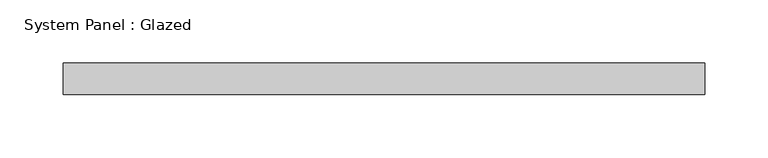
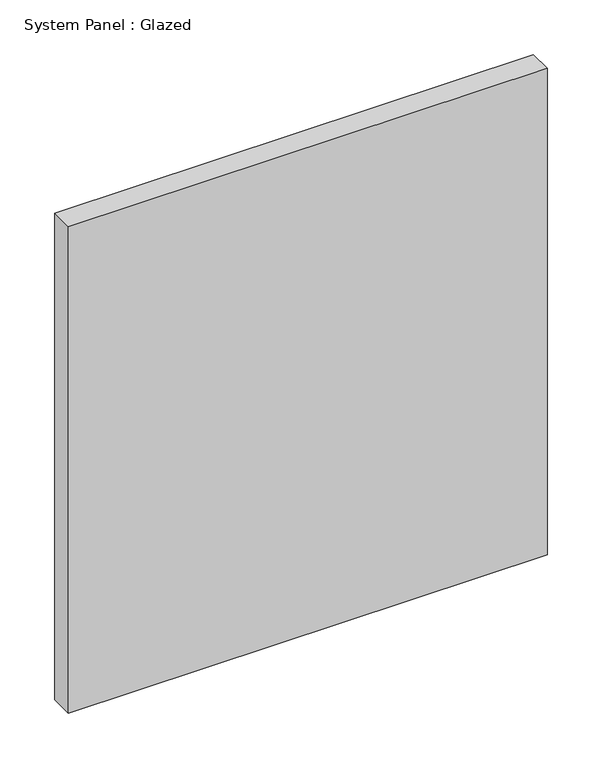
"""IFC4 building model written with IfcOpenShell, lengths in millimetres: plate geometry, System Panel : Glazed."""

from ifc_helpers import new_model, si_unit, origin, origin_with_axes, place, context, project, spatial, polyline, outline, extrude, source, transform, mapped, element, save


def system_panel_glazed_8feeb8a7(model_context):
    return source(origin(), model_context, "Body", "SweptSolid", [
        extrude(outline(polyline([(253.5950031, -12.5), (-253.5950031, -12.5), (-253.5950031, 12.5), (253.5950031, 12.5), (253.5950031, -12.5)])), origin_with_axes(), (0.0, 0.0, 1.0), 545.0),
    ])


if __name__ == "__main__":
    model = new_model("IFC4")
    model_context = context("Model", 3, world=origin())
    ifc_project = project(units=[si_unit("LENGTHUNIT", "METRE", prefix="MILLI")], contexts=[model_context])
    site = spatial("IfcSite", under=ifc_project)
    building = spatial("IfcBuilding", under=site)
    placement = place(None, origin())
    system_panel_glazed_shape = system_panel_glazed_8feeb8a7(model_context)
    element("IfcPlate", 1, ObjectType="System Panel : Glazed", at=placement, inside=building, context=model_context, shape_type="MappedRepresentation", body=[
        mapped(system_panel_glazed_shape, transform((0.0, 0.0, 0.0), x_axis=(1.0, 0.0, 0.0), y_axis=(0.0, 1.0, 0.0), z_axis=(0.0, 0.0, 1.0))),
    ])
    save(model, "model.ifc")
